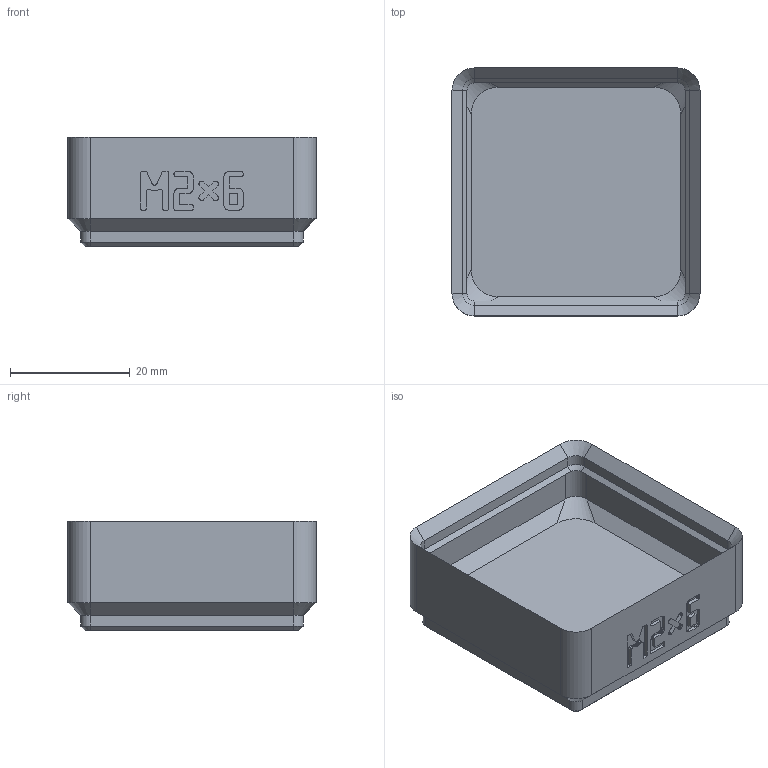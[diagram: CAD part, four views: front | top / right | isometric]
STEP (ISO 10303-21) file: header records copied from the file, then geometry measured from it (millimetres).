
FILE_DESCRIPTION(('Open CASCADE Model'),'2;1');
FILE_NAME('bin_m2x6','2026-11-03T16:47:23',('Author'),('Open CASCADE'), 'Open CASCADE STEP processor 8.0','build123d','Unknown');
FILE_SCHEMA(('AUTOMOTIVE_DESIGN { 1 0 10303 214 1 1 1 1 }'));
Length unit declared in the file: millimetre
Products named in the file (1): bin_m2x6
Bounding box: 41.5 x 41.5 x 18.4 mm (x, y, z)
Volume: 11001.8 mm3; surface area: 8279.3 mm2
Topology: 1 solids, 1 shells, 531 faces, 1489 edges, 974 vertices
Faces by surface type: plane 483, cylinder 24, cone 16, bspline 8
Full cylindrical faces by diameter (mm): 3.2 x4, 6.5 x4
Entity records: 35116 total; most frequent: CARTESIAN_POINT 7111, DIRECTION 4537, LINE 3341, VECTOR 3341, ORIENTED_EDGE 2978, PCURVE 2978, DEFINITIONAL_REPRESENTATION 2978, EDGE_CURVE 1489
